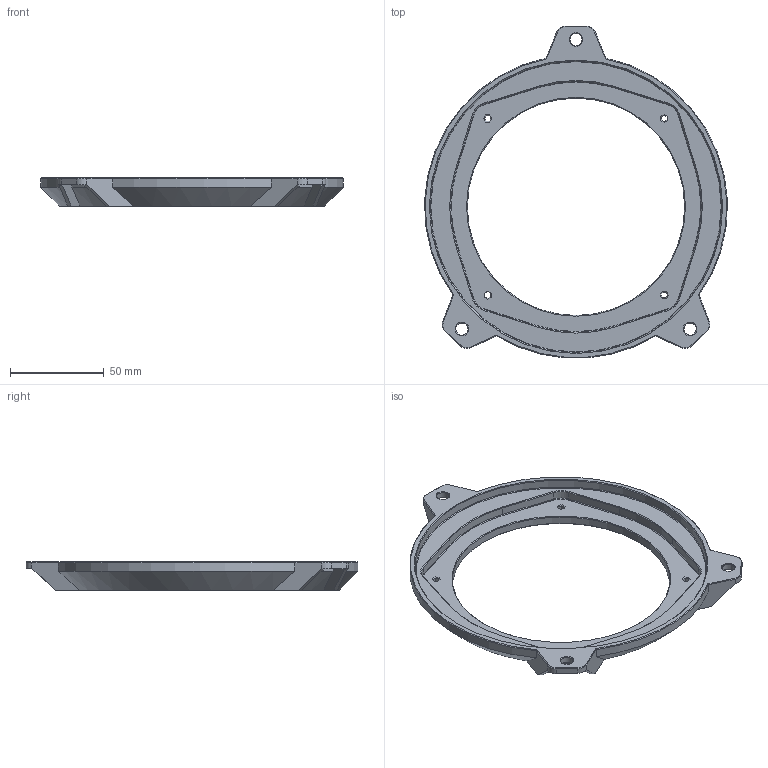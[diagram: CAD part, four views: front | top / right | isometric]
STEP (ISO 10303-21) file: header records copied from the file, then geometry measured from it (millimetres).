
FILE_DESCRIPTION(/* description */ ('Alibre Inc.'),/* implementation_level */ '2;1');
FILE_NAME(/* name */ 'export0',/* time_stamp */ '2017-07-18T23:02:12-04:00',/* author */ (''),/* organization */ (''),/* preprocessor_version */ 'ST-DEVELOPER v14',/* originating_system */ 'Alibre',/* authorisation */ '');
FILE_SCHEMA (('CONFIG_CONTROL_DESIGN'));
Length unit declared in the file: centimetre
Products named in the file (1): ID_1
Bounding box: 161.6 x 177.02 x 15 mm (x, y, z)
Volume: 67239.5 mm3; surface area: 34673.4 mm2
Topology: 1 solids, 1 shells, 202 faces, 480 edges, 282 vertices
Faces by surface type: plane 139, cone 38, cylinder 25
Full cylindrical faces by diameter (mm): 6.5 x3, 116 x1, 155.75 x1
Entity records: 5500 total; most frequent: CARTESIAN_POINT 983, ORIENTED_EDGE 930, DIRECTION 790, EDGE_CURVE 465, VECTOR 359, LINE 359, AXIS2_PLACEMENT_3D 285, VERTEX_POINT 279
